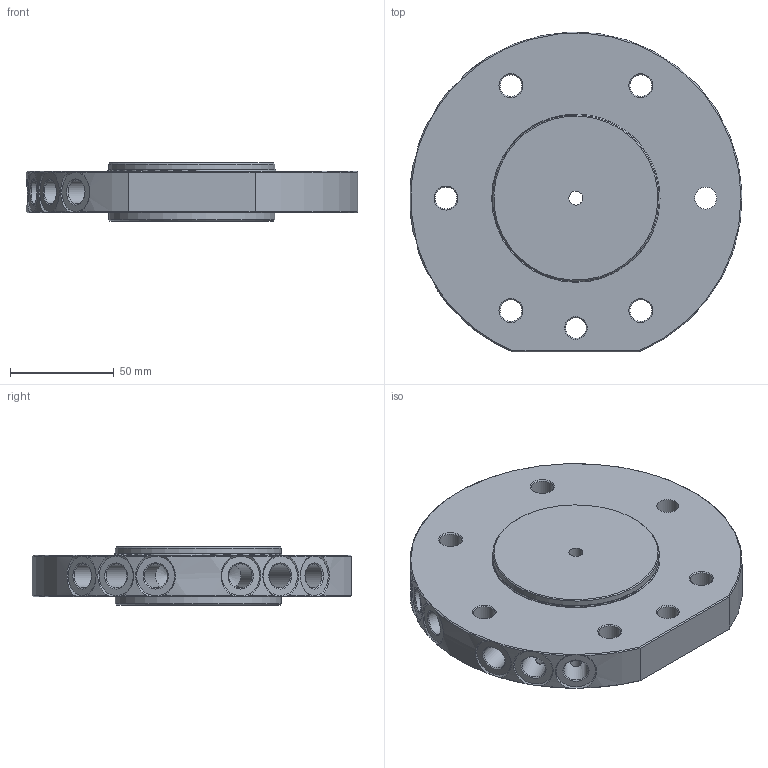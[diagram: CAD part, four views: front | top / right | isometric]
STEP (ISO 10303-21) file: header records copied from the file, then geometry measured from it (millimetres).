
FILE_DESCRIPTION(/* description */ (''),/* implementation_level */ '2;1');
FILE_NAME(/* name */ 'G-ZS160-S6P_Rev.1.01.stp',/* time_stamp */ '2024-08-29T15:23:55+02:00',/* author */ ('ysplieth'),/* organization */ (''),/* preprocessor_version */ 'ST-DEVELOPER v20',/* originating_system */ 'Autodesk Inventor 2024',/* authorisation */ '');
FILE_SCHEMA (('AUTOMOTIVE_DESIGN { 1 0 10303 214 3 1 1 }'));
Length unit declared in the file: millimetre
Products named in the file (1): Bauteil3
Bounding box: 159.75 x 153.95 x 27.95 mm (x, y, z)
Volume: 351161.1 mm3; surface area: 69090.2 mm2
Topology: 2 solids, 2 shells, 111 faces, 271 edges, 169 vertices
Faces by surface type: cone 57, cylinder 34, plane 18, torus 2
Full cylindrical faces by diameter (mm): 5 x6, 6.75 x1, 10 x1, 10.5 x6, 11.6 x6, 60 x1, 78.8 x2, 80 x4
Entity records: 3872 total; most frequent: CARTESIAN_POINT 1049, DIRECTION 570, ORIENTED_EDGE 530, EDGE_CURVE 265, AXIS2_PLACEMENT_3D 247, VERTEX_POINT 169, EDGE_LOOP 152, CIRCLE 135
